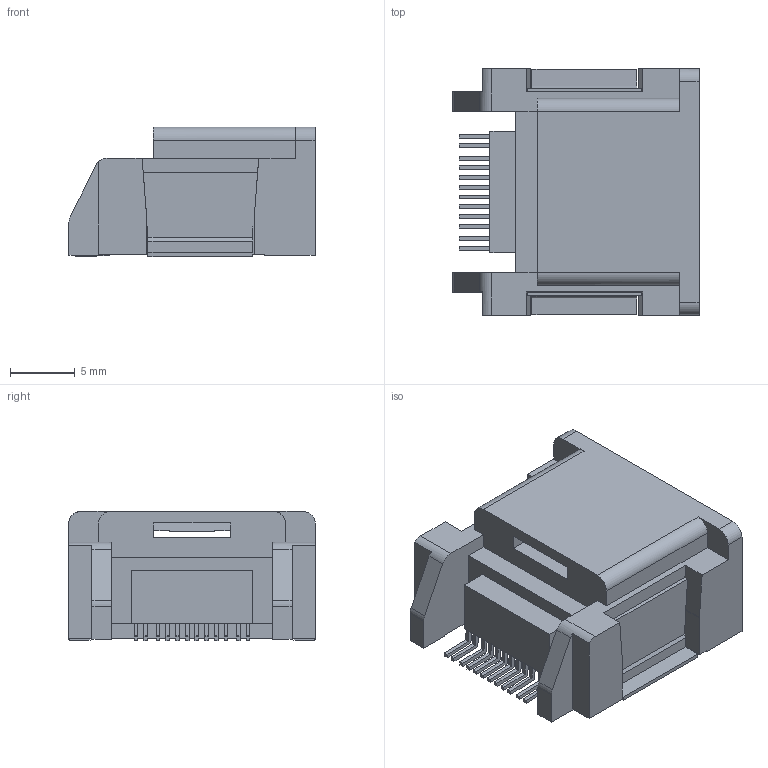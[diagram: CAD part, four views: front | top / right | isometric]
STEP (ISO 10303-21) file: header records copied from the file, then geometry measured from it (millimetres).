
FILE_DESCRIPTION(('CATIA V5 STEP','CAx-IF Rec.Pracs.--- Model Styling and Organization---1.5--- 2016-08-15','CAx-IF Rec.Pracs.---Supplemental Geometry---1.0---2011-11-01','CAx-IF Rec.Pracs.--- Composite Materials ---1.1---2010-07-15'),'2;1');
FILE_NAME('C:\Users\0120140016\Desktop\カタログ3D\12WAY\6099-0003(HE020-12SMT-GR).stp','2024-09-25T03:25:42+00:00',('none'),('none'),'CATIA Version 5-6 Release 2022 SP2 HF23','CATIA V5 STEP AP214 v2','none');
FILE_SCHEMA(('AUTOMOTIVE_DESIGN { 1 0 10303 214 1 1 1 1 }'));
Length unit declared in the file: millimetre
Products named in the file (1): M-ASSY12
Bounding box: 19 x 19.05 x 10 mm (x, y, z)
Volume: 1399 mm3; surface area: 2273.9 mm2
Topology: 1 solids, 1 shells, 280 faces, 764 edges, 510 vertices
Faces by surface type: plane 264, cylinder 16
Entity records: 8033 total; most frequent: ORIENTED_EDGE 1528, CARTESIAN_POINT 1478, DIRECTION 1034, EDGE_CURVE 764, VECTOR 726, LINE 726, VERTEX_POINT 510, EDGE_LOOP 306
